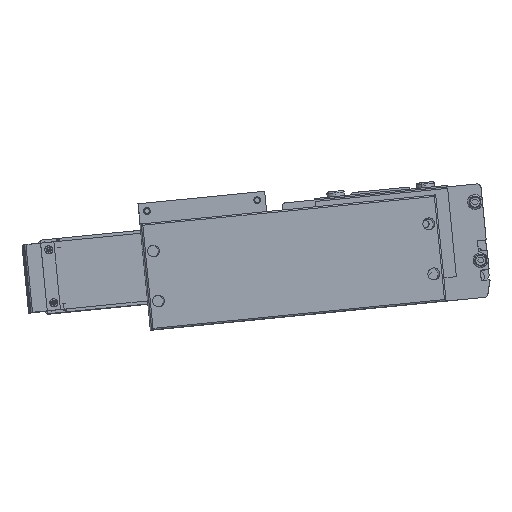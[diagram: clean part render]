
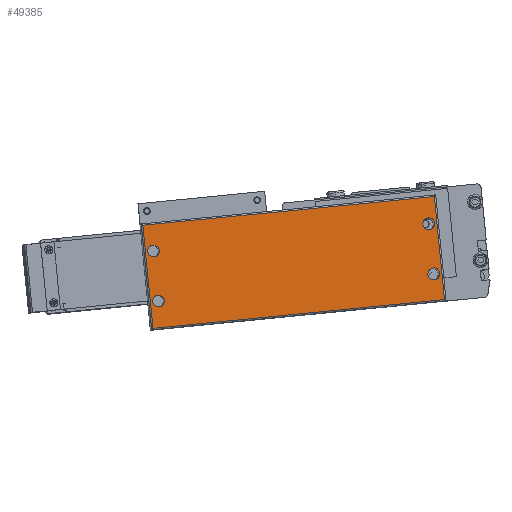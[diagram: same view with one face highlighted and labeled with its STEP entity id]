
A CAD part, top view. The second image highlights one B-rep face of the part: STEP entity #49385.
In plain terms, the highlighted planar face has unit normal (0.017, 0.003, 1) as drawn and (0, 0, 1) by its records, which use the part's own axes.
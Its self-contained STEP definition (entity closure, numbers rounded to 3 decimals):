
#8711 = CARTESIAN_POINT ( 'NONE',  ( 25.25, 19., 44. ) ) ;
#9347 = CARTESIAN_POINT ( 'NONE',  ( -153.75, 19., 44. ) ) ;
#9387 = CARTESIAN_POINT ( 'NONE',  ( -161.75, 19., 44. ) ) ;
#9402 = CARTESIAN_POINT ( 'NONE',  ( -153.75, 53., 44. ) ) ;
#9474 = CARTESIAN_POINT ( 'NONE',  ( -161.75, 53., 44. ) ) ;
#9558 = DIRECTION ( 'NONE',  ( 1., 0., 0. ) ) ;
#9560 = DIRECTION ( 'NONE',  ( 0., 0., 1. ) ) ;
#9563 = CARTESIAN_POINT ( 'NONE',  ( -157.75, 19., 44. ) ) ;
#9564 = AXIS2_PLACEMENT_3D ( 'NONE', #9563, #9560, #9558 ) ;
#9579 = CIRCLE ( 'NONE', #9564, 4. ) ;
#9609 = DIRECTION ( 'NONE',  ( 1., 0., 0. ) ) ;
#9611 = DIRECTION ( 'NONE',  ( 0., 0., 1. ) ) ;
#9613 = AXIS2_PLACEMENT_3D ( 'NONE', #9652, #9611, #9609 ) ;
#9621 = CIRCLE ( 'NONE', #9613, 4. ) ;
#9652 = CARTESIAN_POINT ( 'NONE',  ( -157.75, 53., 44. ) ) ;
#9690 = CARTESIAN_POINT ( 'NONE',  ( 33.25, 53., 44. ) ) ;
#9723 = CIRCLE ( 'NONE', #9813, 4. ) ;
#9734 = CARTESIAN_POINT ( 'NONE',  ( 29.25, 53., 44. ) ) ;
#9809 = DIRECTION ( 'NONE',  ( 1., 0., 0. ) ) ;
#9810 = DIRECTION ( 'NONE',  ( 0., 0., 1. ) ) ;
#9812 = CARTESIAN_POINT ( 'NONE',  ( 29.25, 19., 44. ) ) ;
#9813 = AXIS2_PLACEMENT_3D ( 'NONE', #9812, #9810, #9809 ) ;
#9831 = DIRECTION ( 'NONE',  ( 1., 0., 0. ) ) ;
#9833 = DIRECTION ( 'NONE',  ( 0., 0., 1. ) ) ;
#9836 = CARTESIAN_POINT ( 'NONE',  ( 33.25, 19., 44. ) ) ;
#9851 = CIRCLE ( 'NONE', #9867, 4. ) ;
#9867 = AXIS2_PLACEMENT_3D ( 'NONE', #9734, #9833, #9831 ) ;
#10128 = CARTESIAN_POINT ( 'NONE',  ( 25.25, 53., 44. ) ) ;
#11445 = CARTESIAN_POINT ( 'NONE',  ( 34.75, 1., 44. ) ) ;
#11569 = DIRECTION ( 'NONE',  ( 1., 0., 0. ) ) ;
#11571 = DIRECTION ( 'NONE',  ( 0., 0., 1. ) ) ;
#11576 = CIRCLE ( 'NONE', #11740, 4. ) ;
#11584 = CIRCLE ( 'NONE', #11594, 4. ) ;
#11594 = AXIS2_PLACEMENT_3D ( 'NONE', #11604, #11571, #11569 ) ;
#11604 = CARTESIAN_POINT ( 'NONE',  ( -157.75, 53., 44. ) ) ;
#11635 = CARTESIAN_POINT ( 'NONE',  ( 29.25, 53., 44. ) ) ;
#11657 = DIRECTION ( 'NONE',  ( 1., 0., 0. ) ) ;
#11659 = DIRECTION ( 'NONE',  ( 0., 0., 1. ) ) ;
#11660 = CARTESIAN_POINT ( 'NONE',  ( 29.25, 19., 44. ) ) ;
#11676 = DIRECTION ( 'NONE',  ( 1., 0., 0. ) ) ;
#11679 = DIRECTION ( 'NONE',  ( 0., 0., 1. ) ) ;
#11681 = CIRCLE ( 'NONE', #11710, 4. ) ;
#11699 = DIRECTION ( 'NONE',  ( 1., 0., 0. ) ) ;
#11702 = DIRECTION ( 'NONE',  ( 0., 0., 1. ) ) ;
#11705 = CARTESIAN_POINT ( 'NONE',  ( -157.75, 19., 44. ) ) ;
#11708 = CIRCLE ( 'NONE', #11722, 4. ) ;
#11710 = AXIS2_PLACEMENT_3D ( 'NONE', #11660, #11659, #11657 ) ;
#11722 = AXIS2_PLACEMENT_3D ( 'NONE', #11635, #11679, #11676 ) ;
#11740 = AXIS2_PLACEMENT_3D ( 'NONE', #11705, #11702, #11699 ) ;
#11766 = CARTESIAN_POINT ( 'NONE',  ( -163.25, 1., 44. ) ) ;
#11840 = DIRECTION ( 'NONE',  ( 1., 0., 0. ) ) ;
#11841 = VECTOR ( 'NONE', #11840, 1000. ) ;
#11843 = CARTESIAN_POINT ( 'NONE',  ( 35.75, 1., 44. ) ) ;
#11845 = LINE ( 'NONE', #11843, #11841 ) ;
#11847 = CARTESIAN_POINT ( 'NONE',  ( -163.25, 71., 44. ) ) ;
#11851 = LINE ( 'NONE', #11863, #12010 ) ;
#11860 = CARTESIAN_POINT ( 'NONE',  ( -164.25, 71., 44. ) ) ;
#11862 = LINE ( 'NONE', #11860, #11938 ) ;
#11863 = CARTESIAN_POINT ( 'NONE',  ( 34.75, 72., 44. ) ) ;
#11869 = FACE_BOUND ( 'NONE', #49344, .T. ) ;
#11899 = DIRECTION ( 'NONE',  ( 0., -1., 0. ) ) ;
#11907 = VECTOR ( 'NONE', #11899, 1000. ) ;
#11908 = CARTESIAN_POINT ( 'NONE',  ( -163.25, 0., 44. ) ) ;
#11911 = LINE ( 'NONE', #11908, #11907 ) ;
#11927 = AXIS2_PLACEMENT_3D ( 'NONE', #12090, #12088, #12085 ) ;
#11934 = CARTESIAN_POINT ( 'NONE',  ( 34.75, 71., 44. ) ) ;
#11937 = DIRECTION ( 'NONE',  ( -1., 0., 0. ) ) ;
#11938 = VECTOR ( 'NONE', #11937, 1000. ) ;
#11982 = FACE_BOUND ( 'NONE', #49313, .T. ) ;
#11992 = FACE_BOUND ( 'NONE', #49306, .T. ) ;
#12009 = DIRECTION ( 'NONE',  ( 0., 1., 0. ) ) ;
#12010 = VECTOR ( 'NONE', #12009, 1000. ) ;
#12085 = DIRECTION ( 'NONE',  ( 1., 0., 0. ) ) ;
#12088 = DIRECTION ( 'NONE',  ( 0., 0., 1. ) ) ;
#12090 = CARTESIAN_POINT ( 'NONE',  ( -164.25, 0., 44. ) ) ;
#12106 = FACE_OUTER_BOUND ( 'NONE', #49360, .T. ) ;
#12111 = PLANE ( 'NONE',  #11927 ) ;
#12112 = FACE_BOUND ( 'NONE', #49276, .T. ) ;
#48859 = VERTEX_POINT ( 'NONE', #9387 ) ;
#48860 = VERTEX_POINT ( 'NONE', #9347 ) ;
#48874 = VERTEX_POINT ( 'NONE', #9402 ) ;
#48879 = VERTEX_POINT ( 'NONE', #9474 ) ;
#48886 = VERTEX_POINT ( 'NONE', #8711 ) ;
#48897 = EDGE_CURVE ( 'NONE', #48859, #48860, #9579, .T. ) ;
#48920 = EDGE_CURVE ( 'NONE', #48879, #48874, #9621, .T. ) ;
#48953 = EDGE_CURVE ( 'NONE', #49011, #48954, #9851, .T. ) ;
#48954 = VERTEX_POINT ( 'NONE', #9690 ) ;
#48956 = VERTEX_POINT ( 'NONE', #9836 ) ;
#48957 = EDGE_CURVE ( 'NONE', #48886, #48956, #9723, .T. ) ;
#49011 = VERTEX_POINT ( 'NONE', #10128 ) ;
#49262 = ORIENTED_EDGE ( 'NONE', *, *, #49307, .F. ) ;
#49264 = VERTEX_POINT ( 'NONE', #11445 ) ;
#49267 = ORIENTED_EDGE ( 'NONE', *, *, #48957, .F. ) ;
#49276 = EDGE_LOOP ( 'NONE', ( #49262, #49303 ) ) ;
#49303 = ORIENTED_EDGE ( 'NONE', *, *, #48920, .F. ) ;
#49306 = EDGE_LOOP ( 'NONE', ( #49342, #49267 ) ) ;
#49307 = EDGE_CURVE ( 'NONE', #48874, #48879, #11584, .T. ) ;
#49311 = EDGE_CURVE ( 'NONE', #48860, #48859, #11576, .T. ) ;
#49313 = EDGE_LOOP ( 'NONE', ( #49315, #49368 ) ) ;
#49315 = ORIENTED_EDGE ( 'NONE', *, *, #49322, .F. ) ;
#49318 = ORIENTED_EDGE ( 'NONE', *, *, #48897, .F. ) ;
#49319 = EDGE_CURVE ( 'NONE', #48956, #48886, #11681, .T. ) ;
#49322 = EDGE_CURVE ( 'NONE', #48954, #49011, #11708, .T. ) ;
#49336 = ORIENTED_EDGE ( 'NONE', *, *, #49311, .F. ) ;
#49342 = ORIENTED_EDGE ( 'NONE', *, *, #49319, .F. ) ;
#49344 = EDGE_LOOP ( 'NONE', ( #49336, #49318 ) ) ;
#49347 = ORIENTED_EDGE ( 'NONE', *, *, #49379, .T. ) ;
#49348 = EDGE_CURVE ( 'NONE', #49374, #49362, #11911, .T. ) ;
#49357 = ORIENTED_EDGE ( 'NONE', *, *, #49370, .T. ) ;
#49360 = EDGE_LOOP ( 'NONE', ( #49357, #49378, #49347, #49365 ) ) ;
#49362 = VERTEX_POINT ( 'NONE', #11766 ) ;
#49365 = ORIENTED_EDGE ( 'NONE', *, *, #49348, .T. ) ;
#49368 = ORIENTED_EDGE ( 'NONE', *, *, #48953, .F. ) ;
#49370 = EDGE_CURVE ( 'NONE', #49362, #49264, #11845, .T. ) ;
#49371 = EDGE_CURVE ( 'NONE', #49264, #49383, #11851, .T. ) ;
#49374 = VERTEX_POINT ( 'NONE', #11847 ) ;
#49378 = ORIENTED_EDGE ( 'NONE', *, *, #49371, .T. ) ;
#49379 = EDGE_CURVE ( 'NONE', #49383, #49374, #11862, .T. ) ;
#49383 = VERTEX_POINT ( 'NONE', #11934 ) ;
#49385 = ADVANCED_FACE ( 'NONE', ( #12112, #11869, #11992, #11982, #12106 ), #12111, .T. ) ;
